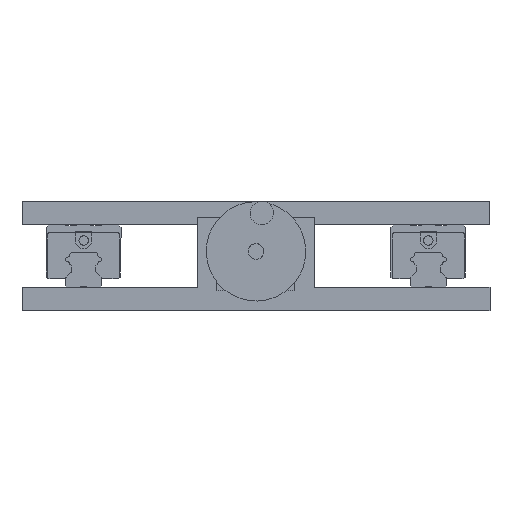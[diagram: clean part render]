
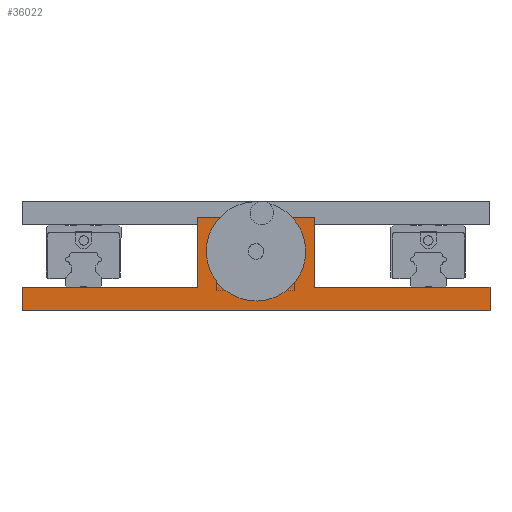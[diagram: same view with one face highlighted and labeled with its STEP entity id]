
A CAD part, front view. The second image highlights one B-rep face of the part: STEP entity #36022.
In plain terms, the highlighted planar face has unit normal (0, -1, 0).
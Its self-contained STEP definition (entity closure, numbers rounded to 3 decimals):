
#540 = CARTESIAN_POINT ( 'NONE',  ( 0., -366.5, 38. ) ) ;
#1413 = DIRECTION ( 'NONE',  ( 0., 0., -1. ) ) ;
#1418 = FACE_OUTER_BOUND ( 'NONE', #65601, .T. ) ;
#1905 = EDGE_CURVE ( 'NONE', #61928, #46272, #12908, .T. ) ;
#1959 = CARTESIAN_POINT ( 'NONE',  ( -150., -366.5, 15. ) ) ;
#3974 = DIRECTION ( 'NONE',  ( 0., 0., -1. ) ) ;
#5357 = CARTESIAN_POINT ( 'NONE',  ( 150., -366.5, 15. ) ) ;
#5848 = CARTESIAN_POINT ( 'NONE',  ( 0., -366.5, 38. ) ) ;
#6037 = DIRECTION ( 'NONE',  ( 0., -1., 0. ) ) ;
#6182 = EDGE_CURVE ( 'NONE', #28333, #35836, #21300, .T. ) ;
#6496 = EDGE_CURVE ( 'NONE', #51501, #35836, #48653, .T. ) ;
#7685 = VECTOR ( 'NONE', #70053, 1000. ) ;
#8695 = EDGE_LOOP ( 'NONE', ( #25524, #17680 ) ) ;
#8930 = AXIS2_PLACEMENT_3D ( 'NONE', #1959, #40052, #61994 ) ;
#9536 = CARTESIAN_POINT ( 'NONE',  ( 37.5, -366.5, 60. ) ) ;
#9741 = EDGE_CURVE ( 'NONE', #46272, #61928, #68353, .T. ) ;
#9821 = CARTESIAN_POINT ( 'NONE',  ( -37.5, -366.5, 60. ) ) ;
#11305 = EDGE_CURVE ( 'NONE', #53564, #28333, #67144, .T. ) ;
#11814 = CARTESIAN_POINT ( 'NONE',  ( 37.5, -366.5, 15. ) ) ;
#11949 = DIRECTION ( 'NONE',  ( 0., 0., -1. ) ) ;
#12626 = VECTOR ( 'NONE', #3974, 1000. ) ;
#12650 = ORIENTED_EDGE ( 'NONE', *, *, #15833, .F. ) ;
#12663 = AXIS2_PLACEMENT_3D ( 'NONE', #5848, #28170, #21751 ) ;
#12760 = LINE ( 'NONE', #55751, #63073 ) ;
#12861 = CARTESIAN_POINT ( 'NONE',  ( 0., -366.5, 43. ) ) ;
#12908 = CIRCLE ( 'NONE', #34664, 5. ) ;
#14091 = EDGE_CURVE ( 'NONE', #27978, #53670, #19902, .T. ) ;
#14173 = CARTESIAN_POINT ( 'NONE',  ( -150., -366.5, 0. ) ) ;
#14531 = ORIENTED_EDGE ( 'NONE', *, *, #11305, .T. ) ;
#14826 = EDGE_CURVE ( 'NONE', #53670, #23175, #52661, .T. ) ;
#15036 = ORIENTED_EDGE ( 'NONE', *, *, #25446, .T. ) ;
#15833 = EDGE_CURVE ( 'NONE', #53564, #56610, #47336, .T. ) ;
#17582 = CARTESIAN_POINT ( 'NONE',  ( 0., -366.5, 33. ) ) ;
#17680 = ORIENTED_EDGE ( 'NONE', *, *, #9741, .F. ) ;
#17901 = CARTESIAN_POINT ( 'NONE',  ( 150., -366.5, 0. ) ) ;
#19902 = LINE ( 'NONE', #68362, #44620 ) ;
#21300 = LINE ( 'NONE', #14173, #49451 ) ;
#21751 = DIRECTION ( 'NONE',  ( 0., 0., 1. ) ) ;
#23175 = VERTEX_POINT ( 'NONE', #11814 ) ;
#23674 = ORIENTED_EDGE ( 'NONE', *, *, #14091, .F. ) ;
#25446 = EDGE_CURVE ( 'NONE', #27978, #56610, #12760, .T. ) ;
#25524 = ORIENTED_EDGE ( 'NONE', *, *, #1905, .F. ) ;
#26116 = CARTESIAN_POINT ( 'NONE',  ( -150., -366.5, 15. ) ) ;
#26985 = EDGE_CURVE ( 'NONE', #23175, #51501, #50520, .T. ) ;
#27978 = VERTEX_POINT ( 'NONE', #9821 ) ;
#28170 = DIRECTION ( 'NONE',  ( 0., -1., 0. ) ) ;
#28323 = CARTESIAN_POINT ( 'NONE',  ( 37.5, -366.5, 60. ) ) ;
#28333 = VERTEX_POINT ( 'NONE', #34591 ) ;
#30290 = CARTESIAN_POINT ( 'NONE',  ( -150., -366.5, 15. ) ) ;
#32836 = VECTOR ( 'NONE', #41108, 1000. ) ;
#32875 = ORIENTED_EDGE ( 'NONE', *, *, #6496, .F. ) ;
#34591 = CARTESIAN_POINT ( 'NONE',  ( -150., -366.5, 0. ) ) ;
#34664 = AXIS2_PLACEMENT_3D ( 'NONE', #540, #6037, #44179 ) ;
#35836 = VERTEX_POINT ( 'NONE', #17901 ) ;
#36022 = ADVANCED_FACE ( 'NONE', ( #68774, #1418 ), #67219, .F. ) ;
#36674 = DIRECTION ( 'NONE',  ( 1., 0., 0. ) ) ;
#38578 = VECTOR ( 'NONE', #64288, 1000. ) ;
#40052 = DIRECTION ( 'NONE',  ( 0., 1., 0. ) ) ;
#41108 = DIRECTION ( 'NONE',  ( 1., 0., 0. ) ) ;
#41349 = CARTESIAN_POINT ( 'NONE',  ( -150., -366.5, 15. ) ) ;
#44179 = DIRECTION ( 'NONE',  ( 0., 0., 1. ) ) ;
#44620 = VECTOR ( 'NONE', #36674, 1000. ) ;
#46272 = VERTEX_POINT ( 'NONE', #17582 ) ;
#47336 = LINE ( 'NONE', #63048, #32836 ) ;
#48653 = LINE ( 'NONE', #5357, #7685 ) ;
#49451 = VECTOR ( 'NONE', #52722, 1000. ) ;
#50186 = VECTOR ( 'NONE', #11949, 1000. ) ;
#50520 = LINE ( 'NONE', #26116, #38578 ) ;
#51372 = ORIENTED_EDGE ( 'NONE', *, *, #14826, .F. ) ;
#51501 = VERTEX_POINT ( 'NONE', #56092 ) ;
#52661 = LINE ( 'NONE', #28323, #50186 ) ;
#52722 = DIRECTION ( 'NONE',  ( 1., 0., 0. ) ) ;
#53564 = VERTEX_POINT ( 'NONE', #30290 ) ;
#53670 = VERTEX_POINT ( 'NONE', #9536 ) ;
#55751 = CARTESIAN_POINT ( 'NONE',  ( -37.5, -366.5, 60. ) ) ;
#56092 = CARTESIAN_POINT ( 'NONE',  ( 150., -366.5, 15. ) ) ;
#56610 = VERTEX_POINT ( 'NONE', #65024 ) ;
#61701 = ORIENTED_EDGE ( 'NONE', *, *, #6182, .T. ) ;
#61928 = VERTEX_POINT ( 'NONE', #12861 ) ;
#61994 = DIRECTION ( 'NONE',  ( 0., 0., 1. ) ) ;
#63048 = CARTESIAN_POINT ( 'NONE',  ( -150., -366.5, 15. ) ) ;
#63073 = VECTOR ( 'NONE', #1413, 1000. ) ;
#64288 = DIRECTION ( 'NONE',  ( 1., 0., 0. ) ) ;
#64626 = ORIENTED_EDGE ( 'NONE', *, *, #26985, .F. ) ;
#65024 = CARTESIAN_POINT ( 'NONE',  ( -37.5, -366.5, 15. ) ) ;
#65601 = EDGE_LOOP ( 'NONE', ( #61701, #32875, #64626, #51372, #23674, #15036, #12650, #14531 ) ) ;
#67144 = LINE ( 'NONE', #41349, #12626 ) ;
#67219 = PLANE ( 'NONE',  #8930 ) ;
#68353 = CIRCLE ( 'NONE', #12663, 5. ) ;
#68362 = CARTESIAN_POINT ( 'NONE',  ( -37.5, -366.5, 60. ) ) ;
#68774 = FACE_BOUND ( 'NONE', #8695, .T. ) ;
#70053 = DIRECTION ( 'NONE',  ( 0., 0., -1. ) ) ;
